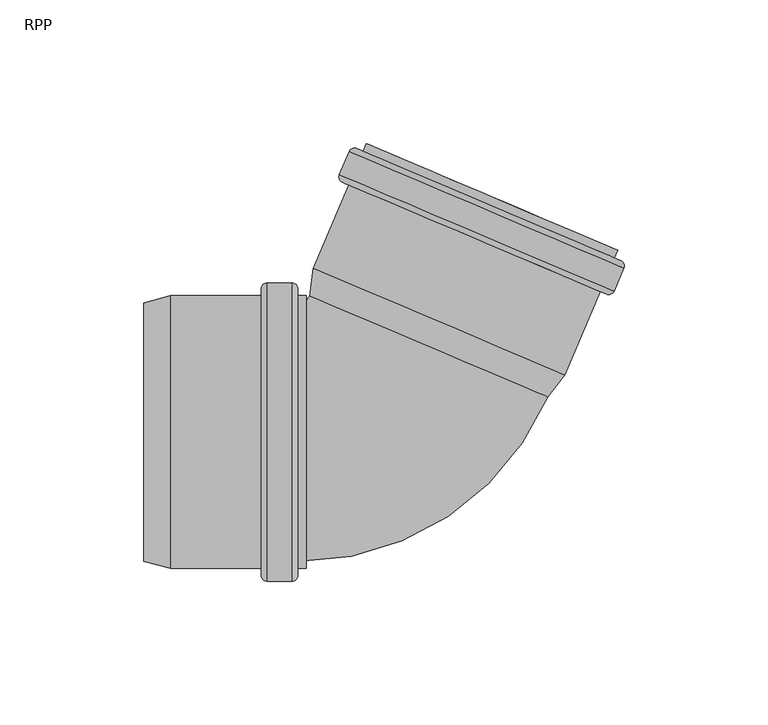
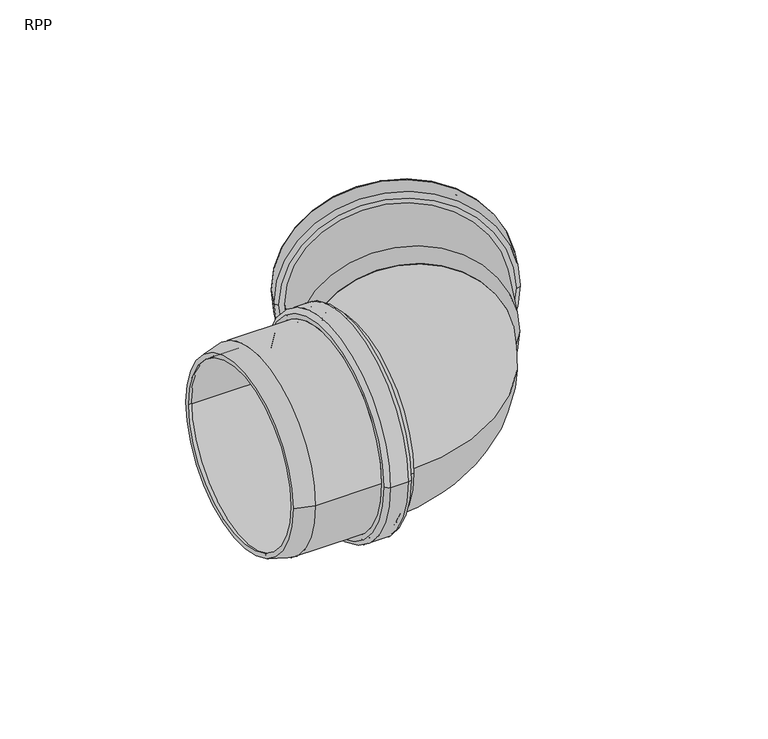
"""IFC4 building model written with IfcOpenShell, lengths in millimetres: pipe fitting geometry, RAUPIANO PLUS Bend : RPP."""

from ifc_helpers import new_model, si_unit, point, frame, origin, place, context, project, spatial, polyline, circle_curve, ellipse_curve, trimmed, source, transform, mapped, element, save
from ifc_brep_helpers import plane_surface, cylinder_surface, revolved_surface, advanced_brep


def rpp_eaa9c95d(model_context):
    return source(origin(), model_context, "Body", "AdvancedBrep", [
        advanced_brep(
        [(-43.3323925, -45.3, 0.0), (-43.3323925, 45.3, 0.0), (-76.81263, 45.3, 0.0), (-76.81263, -45.3, 0.0), (-42.8323925, -49.7, 0.0), (-42.8323925, 49.7, 0.0), (-43.3323925, 49.2, 0.0), (-43.3323925, -49.2, 0.0), (-35.5323925, -49.7, 0.0), (-35.5323925, 49.7, 0.0), (-35.0323925, -49.2, 0.0), (-35.0323925, 49.2, 0.0), (-29.9323925, -45.3, 0.0), (-29.9323925, 45.3, 0.0), (-35.0323925, 45.3, 0.0), (-35.0323925, -45.3, 0.0), (-32.8323925, -47.5, 0.0), (-32.8323925, 47.5, 0.0), (-29.9323925, 47.5, 0.0), (-29.9323925, -47.5, 0.0), (-34.8323925, -51.9, 0.0), (-34.8323925, 51.9, 0.0), (-32.8323925, 49.9, 0.0), (-32.8323925, -49.9, 0.0), (-43.5323925, -51.9, 0.0), (-43.5323925, 51.9, 0.0), (-45.5323925, -49.9, 0.0), (-45.5323925, 49.9, 0.0), (-77.1022655, -47.5, 0.0), (-77.1022655, 47.5, 0.0), (-45.5323925, 47.5, 0.0), (-45.5323925, -47.5, 0.0), (-86.4323925, -45.0, 0.0), (-86.4323925, 45.0, 0.0), (-86.4323925, 42.7223924, 0.0), (-86.4323925, -42.7223924, 0.0)],
        [
            (0, 1, circle_curve(frame((-43.3323925, 0.0, 0.0), z_axis=(1.0, 0.0, 0.0), x_axis=(0.0, 1.0, 0.0)), 45.3)),
            (1, 2),
            (2, 3, circle_curve(frame((-76.81263, 0.0, 0.0), z_axis=(-1.0, 0.0, 0.0), x_axis=(0.0, 1.0, 0.0)), 45.3)),
            (3, 0),
            (4, 5, circle_curve(frame((-42.8323925, 0.0, 0.0), z_axis=(1.0, 0.0, 0.0), x_axis=(0.0, 1.0, 0.0)), 49.7)),
            (5, 6, circle_curve(frame((-42.8323925, 49.2, 0.0), z_axis=(0.0, 0.0, 1.0), x_axis=(0.0, -1.0, 0.0)), 0.5)),
            (6, 7, circle_curve(frame((-43.3323925, 0.0, 0.0), z_axis=(-1.0, 0.0, 0.0), x_axis=(0.0, 1.0, 0.0)), 49.2)),
            (7, 4, circle_curve(frame((-42.8323925, -49.2, 0.0), z_axis=(0.0, 0.0, 1.0), x_axis=(0.0, 1.0, 0.0)), 0.5)),
            (8, 9, circle_curve(frame((-35.5323925, 0.0, 0.0), z_axis=(1.0, 0.0, 0.0), x_axis=(0.0, 1.0, 0.0)), 49.7)),
            (9, 5),
            (4, 8),
            (10, 11, circle_curve(frame((-35.0323925, 0.0, 0.0), z_axis=(1.0, 0.0, 0.0), x_axis=(0.0, 1.0, 0.0)), 49.2)),
            (11, 9, circle_curve(frame((-35.5323925, 49.2, 0.0), z_axis=(0.0, 0.0, 1.0), x_axis=(0.0, -1.0, 0.0)), 0.5)),
            (8, 10, circle_curve(frame((-35.5323925, -49.2, 0.0), z_axis=(0.0, 0.0, 1.0), x_axis=(0.0, 1.0, 0.0)), 0.5)),
            (12, 13, circle_curve(frame((-29.9323925, 0.0, 0.0), z_axis=(1.0, 0.0, 0.0), x_axis=(0.0, 1.0, 0.0)), 45.3)),
            (13, 14),
            (14, 15, circle_curve(frame((-35.0323925, 0.0, 0.0), z_axis=(-1.0, 0.0, 0.0), x_axis=(0.0, 1.0, 0.0)), 45.3)),
            (15, 12),
            (16, 17, circle_curve(frame((-32.8323925, 0.0, 0.0), z_axis=(1.0, 0.0, 0.0), x_axis=(0.0, 1.0, 0.0)), 47.5)),
            (17, 18),
            (18, 19, circle_curve(frame((-29.9323925, 0.0, 0.0), z_axis=(-1.0, 0.0, 0.0), x_axis=(0.0, 1.0, 0.0)), 47.5)),
            (19, 16),
            (20, 21, circle_curve(frame((-34.8323925, 0.0, 0.0), z_axis=(1.0, 0.0, 0.0), x_axis=(0.0, 1.0, 0.0)), 51.9)),
            (21, 22, circle_curve(frame((-34.8323925, 49.9, 0.0), z_axis=(0.0, 0.0, -1.0), x_axis=(0.0, -1.0, 0.0)), 2.0)),
            (22, 23, circle_curve(frame((-32.8323925, 0.0, 0.0), z_axis=(-1.0, 0.0, 0.0), x_axis=(0.0, 1.0, 0.0)), 49.9)),
            (23, 20, circle_curve(frame((-34.8323925, -49.9, 0.0), z_axis=(0.0, 0.0, -1.0), x_axis=(0.0, 1.0, 0.0)), 2.0)),
            (24, 25, circle_curve(frame((-43.5323925, 0.0, 0.0), z_axis=(1.0, 0.0, 0.0), x_axis=(0.0, 1.0, 0.0)), 51.9)),
            (25, 21),
            (20, 24),
            (26, 27, circle_curve(frame((-45.5323925, 0.0, 0.0), z_axis=(1.0, 0.0, 0.0), x_axis=(0.0, 1.0, 0.0)), 49.9)),
            (27, 25, circle_curve(frame((-43.5323925, 49.9, 0.0), z_axis=(0.0, 0.0, -1.0), x_axis=(0.0, -1.0, 0.0)), 2.0)),
            (24, 26, circle_curve(frame((-43.5323925, -49.9, 0.0), z_axis=(0.0, 0.0, -1.0), x_axis=(0.0, 1.0, 0.0)), 2.0)),
            (28, 29, circle_curve(frame((-77.1022655, 0.0, 0.0), z_axis=(1.0, 0.0, 0.0), x_axis=(0.0, 1.0, 0.0)), 47.5)),
            (29, 30),
            (30, 31, circle_curve(frame((-45.5323925, 0.0, 0.0), z_axis=(-1.0, 0.0, 0.0), x_axis=(0.0, 1.0, 0.0)), 47.5)),
            (31, 28),
            (32, 33, circle_curve(frame((-86.4323925, 0.0, 0.0), z_axis=(1.0, 0.0, 0.0), x_axis=(0.0, 1.0, 0.0)), 45.0)),
            (33, 29),
            (28, 32),
            (2, 34),
            (34, 35, circle_curve(frame((-86.4323925, 0.0, 0.0), z_axis=(-1.0, 0.0, 0.0), x_axis=(0.0, 1.0, 0.0)), 42.7223924)),
            (35, 3),
            (1, 0, circle_curve(frame((-43.3323925, 0.0, 0.0), z_axis=(1.0, 0.0, 0.0), x_axis=(0.0, -1.0, 0.0)), 45.3)),
            (3, 2, circle_curve(frame((-76.81263, 0.0, 0.0), z_axis=(-1.0, 0.0, 0.0), x_axis=(0.0, -1.0, 0.0)), 45.3)),
            (6, 7, circle_curve(frame((-43.3323925, 0.0, 0.0), z_axis=(1.0, 0.0, 0.0), x_axis=(0.0, -1.0, 0.0)), 49.2)),
            (5, 4, circle_curve(frame((-42.8323925, 0.0, 0.0), z_axis=(1.0, 0.0, 0.0), x_axis=(0.0, -1.0, 0.0)), 49.7)),
            (9, 8, circle_curve(frame((-35.5323925, 0.0, 0.0), z_axis=(1.0, 0.0, 0.0), x_axis=(0.0, -1.0, 0.0)), 49.7)),
            (11, 10, circle_curve(frame((-35.0323925, 0.0, 0.0), z_axis=(1.0, 0.0, 0.0), x_axis=(0.0, -1.0, 0.0)), 49.2)),
            (14, 15, circle_curve(frame((-35.0323925, 0.0, 0.0), z_axis=(1.0, 0.0, 0.0), x_axis=(0.0, -1.0, 0.0)), 45.3)),
            (13, 12, circle_curve(frame((-29.9323925, 0.0, 0.0), z_axis=(1.0, 0.0, 0.0), x_axis=(0.0, -1.0, 0.0)), 45.3)),
            (18, 19, circle_curve(frame((-29.9323925, 0.0, 0.0), z_axis=(1.0, 0.0, 0.0), x_axis=(0.0, -1.0, 0.0)), 47.5)),
            (17, 16, circle_curve(frame((-32.8323925, 0.0, 0.0), z_axis=(1.0, 0.0, 0.0), x_axis=(0.0, -1.0, 0.0)), 47.5)),
            (22, 23, circle_curve(frame((-32.8323925, 0.0, 0.0), z_axis=(1.0, 0.0, 0.0), x_axis=(0.0, -1.0, 0.0)), 49.9)),
            (21, 20, circle_curve(frame((-34.8323925, 0.0, 0.0), z_axis=(1.0, 0.0, 0.0), x_axis=(0.0, -1.0, 0.0)), 51.9)),
            (25, 24, circle_curve(frame((-43.5323925, 0.0, 0.0), z_axis=(1.0, 0.0, 0.0), x_axis=(0.0, -1.0, 0.0)), 51.9)),
            (27, 26, circle_curve(frame((-45.5323925, 0.0, 0.0), z_axis=(1.0, 0.0, 0.0), x_axis=(0.0, -1.0, 0.0)), 49.9)),
            (30, 31, circle_curve(frame((-45.5323925, 0.0, 0.0), z_axis=(1.0, 0.0, 0.0), x_axis=(0.0, -1.0, 0.0)), 47.5)),
            (29, 28, circle_curve(frame((-77.1022655, 0.0, 0.0), z_axis=(1.0, 0.0, 0.0), x_axis=(0.0, -1.0, 0.0)), 47.5)),
            (33, 32, circle_curve(frame((-86.4323925, 0.0, 0.0), z_axis=(1.0, 0.0, 0.0), x_axis=(0.0, -1.0, 0.0)), 45.0)),
            (34, 35, circle_curve(frame((-86.4323925, 0.0, 0.0), z_axis=(1.0, 0.0, 0.0), x_axis=(0.0, -1.0, 0.0)), 42.7223924)),
        ],
        [
            revolved_surface(polyline([(-76.81263, 45.3, 0.0), (-43.3323925, 45.3, 0.0)]), (-86.4323925, 0.0, 0.0), (-1.0, 0.0, 0.0)),
            revolved_surface(trimmed(ellipse_curve(frame((-42.8323925, 49.2, 0.0), z_axis=(0.0, 0.0, -1.0), x_axis=(0.0, -1.0, 0.0)), 0.5, 0.5), [point((-43.3323925, 49.2, 0.0))], [point((-42.8323925, 49.7, 0.0))], True, "CARTESIAN"), (-86.4323925, 0.0, 0.0), (-1.0, 0.0, 0.0)),
            revolved_surface(polyline([(-42.8323925, 49.7, 0.0), (-35.5323925, 49.7, 0.0)]), (-86.4323925, 0.0, 0.0), (-1.0, 0.0, 0.0)),
            revolved_surface(trimmed(ellipse_curve(frame((-35.5323925, 49.2, 0.0), z_axis=(0.0, 0.0, -1.0), x_axis=(0.0, -1.0, 0.0)), 0.5, 0.5), [point((-35.5323925, 49.7, 0.0))], [point((-35.0323925, 49.2, 0.0))], True, "CARTESIAN"), (-86.4323925, 0.0, 0.0), (-1.0, 0.0, 0.0)),
            revolved_surface(polyline([(-35.0323925, 45.3, 0.0), (-29.9323925, 45.3, 0.0)]), (-86.4323925, 0.0, 0.0), (-1.0, 0.0, 0.0)),
            cylinder_surface(frame((-86.4323925, 0.0, 0.0), z_axis=(-1.0, 0.0, 0.0), x_axis=(0.0, 1.0, 0.0)), 47.5),
            revolved_surface(trimmed(ellipse_curve(frame((-34.8323925, 49.9, 0.0), z_axis=(0.0, 0.0, 1.0), x_axis=(0.0, -1.0, 0.0)), 2.0, 2.0), [point((-32.8323925, 49.9, 0.0))], [point((-34.8323925, 51.9, 0.0))], True, "CARTESIAN"), (-86.4323925, 0.0, 0.0), (-1.0, 0.0, 0.0)),
            cylinder_surface(frame((-86.4323925, 0.0, 0.0), z_axis=(-1.0, 0.0, 0.0), x_axis=(0.0, 1.0, 0.0)), 51.9),
            revolved_surface(trimmed(ellipse_curve(frame((-43.5323925, 49.9, 0.0), z_axis=(0.0, 0.0, 1.0), x_axis=(0.0, -1.0, 0.0)), 2.0, 2.0), [point((-43.5323925, 51.9, 0.0))], [point((-45.5323925, 49.9, 0.0))], True, "CARTESIAN"), (-86.4323925, 0.0, 0.0), (-1.0, 0.0, 0.0)),
            revolved_surface(polyline([(-77.1022655, 47.5, 0.0), (-86.4323925, 45.0, 0.0)]), (-86.4323925, 0.0, 0.0), (-1.0, 0.0, 0.0)),
            revolved_surface(polyline([(-86.4323925, 42.7223924, 0.0), (-76.81263, 45.3, 0.0)]), (-86.4323925, 0.0, 0.0), (-1.0, 0.0, 0.0)),
            revolved_surface(polyline([(-76.81263, -45.3, 0.0), (-43.3323925, -45.3, 0.0)]), (-86.4323925, 0.0, 0.0), (-1.0, 0.0, 0.0)),
            plane_surface(frame((-43.3323925, 0.0, 0.0), z_axis=(1.0, 0.0, 0.0), x_axis=(0.0, -1.0, 0.0))),
            revolved_surface(trimmed(ellipse_curve(frame((-42.8323925, -49.2, 0.0), z_axis=(0.0, 0.0, 1.0), x_axis=(0.0, 1.0, 0.0)), 0.5, 0.5), [point((-43.3323925, -49.2, 0.0))], [point((-42.8323925, -49.7, 0.0))], True, "CARTESIAN"), (-86.4323925, 0.0, 0.0), (-1.0, 0.0, 0.0)),
            revolved_surface(polyline([(-42.8323925, -49.7, 0.0), (-35.5323925, -49.7, 0.0)]), (-86.4323925, 0.0, 0.0), (-1.0, 0.0, 0.0)),
            revolved_surface(trimmed(ellipse_curve(frame((-35.5323925, -49.2, 0.0), z_axis=(0.0, 0.0, 1.0), x_axis=(0.0, 1.0, 0.0)), 0.5, 0.5), [point((-35.5323925, -49.7, 0.0))], [point((-35.0323925, -49.2, 0.0))], True, "CARTESIAN"), (-86.4323925, 0.0, 0.0), (-1.0, 0.0, 0.0)),
            plane_surface(frame((-35.0323925, 0.0, 0.0), z_axis=(-1.0, 0.0, 0.0), x_axis=(0.0, -1.0, 0.0))),
            revolved_surface(polyline([(-35.0323925, -45.3, 0.0), (-29.9323925, -45.3, 0.0)]), (-86.4323925, 0.0, 0.0), (-1.0, 0.0, 0.0)),
            plane_surface(frame((-29.9323925, 0.0, 0.0), z_axis=(1.0, 0.0, 0.0), x_axis=(0.0, -1.0, 0.0))),
            cylinder_surface(frame((-86.4323925, 0.0, 0.0), z_axis=(-1.0, 0.0, 0.0), x_axis=(0.0, -1.0, 0.0)), 47.5),
            plane_surface(frame((-32.8323925, 0.0, 0.0), z_axis=(1.0, 0.0, 0.0), x_axis=(0.0, -1.0, 0.0))),
            revolved_surface(trimmed(ellipse_curve(frame((-34.8323925, -49.9, 0.0), z_axis=(0.0, 0.0, -1.0), x_axis=(0.0, 1.0, 0.0)), 2.0, 2.0), [point((-32.8323925, -49.9, 0.0))], [point((-34.8323925, -51.9, 0.0))], True, "CARTESIAN"), (-86.4323925, 0.0, 0.0), (-1.0, 0.0, 0.0)),
            cylinder_surface(frame((-86.4323925, 0.0, 0.0), z_axis=(-1.0, 0.0, 0.0), x_axis=(0.0, -1.0, 0.0)), 51.9),
            revolved_surface(trimmed(ellipse_curve(frame((-43.5323925, -49.9, 0.0), z_axis=(0.0, 0.0, -1.0), x_axis=(0.0, 1.0, 0.0)), 2.0, 2.0), [point((-43.5323925, -51.9, 0.0))], [point((-45.5323925, -49.9, 0.0))], True, "CARTESIAN"), (-86.4323925, 0.0, 0.0), (-1.0, 0.0, 0.0)),
            plane_surface(frame((-45.5323925, 0.0, 0.0), z_axis=(-1.0, 0.0, 0.0), x_axis=(0.0, -1.0, 0.0))),
            revolved_surface(polyline([(-77.1022655, -47.5, 0.0), (-86.4323925, -45.0, 0.0)]), (-86.4323925, 0.0, 0.0), (-1.0, 0.0, 0.0)),
            plane_surface(frame((-86.4323925, 0.0, 0.0), z_axis=(-1.0, 0.0, 0.0), x_axis=(0.0, -1.0, 0.0))),
            revolved_surface(polyline([(-86.4323925, -42.7223924, 0.0), (-76.81263, -45.3, 0.0)]), (-86.4323925, 0.0, 0.0), (-1.0, 0.0, 0.0)),
        ],
        [
            (0, [[1, 2, 3, 4]]),
            (1, [[5, 6, 7, 8]]),
            (2, [[9, 10, -5, 11]]),
            (3, [[12, 13, -9, 14]]),
            (4, [[15, 16, 17, 18]]),
            (5, [[19, 20, 21, 22]]),
            (6, [[23, 24, 25, 26]]),
            (7, [[27, 28, -23, 29]]),
            (8, [[30, 31, -27, 32]]),
            (5, [[33, 34, 35, 36]]),
            (9, [[37, 38, -33, 39]]),
            (10, [[-3, 40, 41, 42]]),
            (11, [[43, -4, 44, -2]]),
            (12, [[45, -7], [-43, -1]]),
            (13, [[46, -8, -45, -6]]),
            (14, [[47, -11, -46, -10]]),
            (15, [[48, -14, -47, -13]]),
            (16, [[-48, -12], [49, -17]]),
            (17, [[50, -18, -49, -16]]),
            (18, [[51, -21], [-50, -15]]),
            (19, [[52, -22, -51, -20]]),
            (20, [[53, -25], [-52, -19]]),
            (21, [[54, -26, -53, -24]]),
            (22, [[55, -29, -54, -28]]),
            (23, [[56, -32, -55, -31]]),
            (24, [[-56, -30], [57, -35]]),
            (19, [[58, -36, -57, -34]]),
            (25, [[59, -39, -58, -38]]),
            (26, [[-59, -37], [60, -41]]),
            (27, [[-44, -42, -60, -40]]),
        ],
    ),
        advanced_brep(
        [(51.9985149, 13.1612061, 0.0), (-26.6538242, 46.5471433, 0.0), (-25.2677839, 56.4093329, 0.0), (58.1299558, 21.0090927, 0.0), (60.0418969, 19.8828733, 0.0), (-27.4060642, 57.0023305, 0.0), (-28.7503731, 47.4370755, 0.0), (54.0950637, 12.2712739, 0.0), (72.377229, 48.9430946, 0.0), (-15.0707321, 86.0625518, 0.0), (80.6082734, 57.0732796, 0.0), (-14.9401303, 97.6311707, 0.0), (-18.3394912, 89.6227785, 0.0), (77.2089126, 49.0648873, 0.0), (78.4726346, 63.3029703, 0.0), (-8.9753265, 100.4224275, 0.0), (-10.1084467, 97.7529635, 0.0), (77.3395143, 60.6335062, 0.0), (74.4547952, 59.4680041, 0.0), (-8.9429445, 94.8682443, 0.0), (-6.9502158, 99.562819, 0.0), (76.4475239, 64.1625788, 0.0), (75.4573137, 50.5688492, 0.0), (-16.0408687, 89.4075234, 0.0), (-13.1885315, 96.1272088, 0.0), (78.309651, 57.2885347, 0.0), (-12.1860129, 87.228054, 0.0), (71.2117268, 51.8278138, 0.0), (-17.2799437, 87.0003065, 0.0), (74.5864407, 48.0053399, 0.0), (79.548726, 59.6957515, 0.0), (-12.3176584, 98.6907182, 0.0), (-12.5329135, 96.3920957, 0.0), (78.0447641, 57.9441526, 0.0), (74.8016957, 50.3039624, 0.0), (-15.7759818, 88.7519054, 0.0)],
        [
            (0, 1, circle_curve(frame((12.6723453, 29.8541747, 0.0), z_axis=(-0.39073112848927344, -0.9205048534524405, 0.0), x_axis=(-0.9205048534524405, 0.39073112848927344, 0.0)), 42.7223924)),
            (1, 2),
            (2, 3, circle_curve(frame((16.431086, 38.7092128, 0.0), z_axis=(0.39073112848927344, 0.9205048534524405, 0.0), x_axis=(-0.9205048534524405, 0.39073112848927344, 0.0)), 45.3)),
            (3, 0),
            (4, 5, circle_curve(frame((16.3179164, 38.4426019, 0.0), z_axis=(-0.39073112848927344, -0.9205048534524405, 0.0), x_axis=(-0.9205048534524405, 0.39073112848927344, 0.0)), 47.5)),
            (5, 6),
            (6, 7, circle_curve(frame((12.6723453, 29.8541747, 0.0), z_axis=(0.39073112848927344, 0.9205048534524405, 0.0), x_axis=(-0.9205048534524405, 0.39073112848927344, 0.0)), 45.0)),
            (7, 4),
            (8, 9, circle_curve(frame((28.6532485, 67.5028232, 0.0), z_axis=(-0.39073112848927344, -0.9205048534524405, 0.0), x_axis=(-0.9205048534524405, 0.39073112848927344, 0.0)), 47.5)),
            (9, 5),
            (4, 8),
            (10, 11, circle_curve(frame((32.8340716, 77.3522251, 0.0), z_axis=(-0.39073112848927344, -0.9205048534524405, 0.0), x_axis=(-0.9205048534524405, 0.39073112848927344, 0.0)), 51.9)),
            (11, 12),
            (12, 13, circle_curve(frame((29.4347107, 69.3438329, 0.0), z_axis=(0.39073112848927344, 0.9205048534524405, 0.0), x_axis=(-0.9205048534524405, 0.39073112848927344, 0.0)), 51.9)),
            (13, 10),
            (14, 15, circle_curve(frame((34.7486541, 81.8626989, 0.0), z_axis=(-0.39073112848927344, -0.9205048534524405, 0.0), x_axis=(-0.9205048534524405, 0.39073112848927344, 0.0)), 47.5)),
            (15, 16),
            (16, 17, circle_curve(frame((33.6155338, 79.1932348, 0.0), z_axis=(0.39073112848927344, 0.9205048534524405, 0.0), x_axis=(-0.9205048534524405, 0.39073112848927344, 0.0)), 47.5)),
            (17, 14),
            (18, 19, circle_curve(frame((32.7559253, 77.1681242, 0.0), z_axis=(-0.39073112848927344, -0.9205048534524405, 0.0), x_axis=(-0.9205048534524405, 0.39073112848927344, 0.0)), 45.3)),
            (19, 20),
            (20, 21, circle_curve(frame((34.7486541, 81.8626989, 0.0), z_axis=(0.39073112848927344, 0.9205048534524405, 0.0), x_axis=(-0.9205048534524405, 0.39073112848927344, 0.0)), 45.3)),
            (21, 18),
            (22, 23, circle_curve(frame((29.7082225, 69.9881863, 0.0), z_axis=(-0.39073112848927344, -0.9205048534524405, 0.0), x_axis=(-0.9205048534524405, 0.39073112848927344, 0.0)), 49.7)),
            (23, 24),
            (24, 25, circle_curve(frame((32.5605598, 76.7078717, 0.0), z_axis=(0.39073112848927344, 0.9205048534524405, 0.0), x_axis=(-0.9205048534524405, 0.39073112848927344, 0.0)), 49.7)),
            (25, 22),
            (2, 26),
            (26, 27, circle_curve(frame((29.512857, 69.5279339, 0.0), z_axis=(0.39073112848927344, 0.9205048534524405, 0.0), x_axis=(-0.9205048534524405, 0.39073112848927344, 0.0)), 45.3)),
            (27, 3),
            (1, 0, circle_curve(frame((12.6723453, 29.8541747, 0.0), z_axis=(-0.39073112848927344, -0.9205048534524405, 0.0), x_axis=(0.9205048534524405, -0.39073112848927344, 0.0)), 42.7223924)),
            (3, 2, circle_curve(frame((16.431086, 38.7092128, 0.0), z_axis=(0.39073112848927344, 0.9205048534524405, 0.0), x_axis=(0.9205048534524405, -0.39073112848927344, 0.0)), 45.3)),
            (6, 7, circle_curve(frame((12.6723453, 29.8541747, 0.0), z_axis=(-0.39073112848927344, -0.9205048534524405, 0.0), x_axis=(0.9205048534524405, -0.39073112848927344, 0.0)), 45.0)),
            (5, 4, circle_curve(frame((16.3179164, 38.4426019, 0.0), z_axis=(-0.39073112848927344, -0.9205048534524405, 0.0), x_axis=(0.9205048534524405, -0.39073112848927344, 0.0)), 47.5)),
            (9, 8, circle_curve(frame((28.6532485, 67.5028232, 0.0), z_axis=(-0.39073112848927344, -0.9205048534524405, 0.0), x_axis=(0.9205048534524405, -0.39073112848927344, 0.0)), 47.5)),
            (28, 29, circle_curve(frame((28.6532485, 67.5028232, 0.0), z_axis=(-0.39073112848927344, -0.9205048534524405, 0.0), x_axis=(0.9205048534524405, -0.39073112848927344, 0.0)), 49.9)),
            (29, 28, circle_curve(frame((28.6532485, 67.5028232, 0.0), z_axis=(-0.39073112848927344, -0.9205048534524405, 0.0), x_axis=(-0.9205048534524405, 0.39073112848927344, 0.0)), 49.9)),
            (11, 10, circle_curve(frame((32.8340716, 77.3522251, 0.0), z_axis=(-0.39073112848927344, -0.9205048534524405, 0.0), x_axis=(0.9205048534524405, -0.39073112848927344, 0.0)), 51.9)),
            (13, 12, circle_curve(frame((29.4347107, 69.3438329, 0.0), z_axis=(0.39073112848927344, 0.9205048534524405, 0.0), x_axis=(0.9205048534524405, -0.39073112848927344, 0.0)), 51.9)),
            (30, 31, circle_curve(frame((33.6155338, 79.1932348, 0.0), z_axis=(0.39073112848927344, 0.9205048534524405, 0.0), x_axis=(0.9205048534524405, -0.39073112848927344, 0.0)), 49.9)),
            (31, 30, circle_curve(frame((33.6155338, 79.1932348, 0.0), z_axis=(0.39073112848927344, 0.9205048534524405, 0.0), x_axis=(-0.9205048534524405, 0.39073112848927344, 0.0)), 49.9)),
            (16, 17, circle_curve(frame((33.6155338, 79.1932348, 0.0), z_axis=(-0.39073112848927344, -0.9205048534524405, 0.0), x_axis=(0.9205048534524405, -0.39073112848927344, 0.0)), 47.5)),
            (15, 14, circle_curve(frame((34.7486541, 81.8626989, 0.0), z_axis=(-0.39073112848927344, -0.9205048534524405, 0.0), x_axis=(0.9205048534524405, -0.39073112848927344, 0.0)), 47.5)),
            (20, 21, circle_curve(frame((34.7486541, 81.8626989, 0.0), z_axis=(-0.39073112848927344, -0.9205048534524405, 0.0), x_axis=(0.9205048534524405, -0.39073112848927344, 0.0)), 45.3)),
            (19, 18, circle_curve(frame((32.7559253, 77.1681242, 0.0), z_axis=(-0.39073112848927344, -0.9205048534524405, 0.0), x_axis=(0.9205048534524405, -0.39073112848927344, 0.0)), 45.3)),
            (32, 33, circle_curve(frame((32.7559253, 77.1681242, 0.0), z_axis=(-0.39073112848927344, -0.9205048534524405, 0.0), x_axis=(0.9205048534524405, -0.39073112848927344, 0.0)), 49.2)),
            (33, 32, circle_curve(frame((32.7559253, 77.1681242, 0.0), z_axis=(-0.39073112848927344, -0.9205048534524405, 0.0), x_axis=(-0.9205048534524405, 0.39073112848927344, 0.0)), 49.2)),
            (23, 22, circle_curve(frame((29.7082225, 69.9881863, 0.0), z_axis=(-0.39073112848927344, -0.9205048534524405, 0.0), x_axis=(0.9205048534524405, -0.39073112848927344, 0.0)), 49.7)),
            (25, 24, circle_curve(frame((32.5605598, 76.7078717, 0.0), z_axis=(0.39073112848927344, 0.9205048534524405, 0.0), x_axis=(0.9205048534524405, -0.39073112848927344, 0.0)), 49.7)),
            (34, 35, circle_curve(frame((29.512857, 69.5279339, 0.0), z_axis=(0.39073112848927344, 0.9205048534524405, 0.0), x_axis=(0.9205048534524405, -0.39073112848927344, 0.0)), 49.2)),
            (35, 34, circle_curve(frame((29.512857, 69.5279339, 0.0), z_axis=(0.39073112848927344, 0.9205048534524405, 0.0), x_axis=(-0.9205048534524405, 0.39073112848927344, 0.0)), 49.2)),
            (26, 27, circle_curve(frame((29.512857, 69.5279339, 0.0), z_axis=(-0.39073112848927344, -0.9205048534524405, 0.0), x_axis=(0.9205048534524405, -0.39073112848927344, 0.0)), 45.3)),
            (12, 28, circle_curve(frame((-16.4984815, 88.8413162, 0.0), z_axis=(0.0, 0.0, 1.0), x_axis=(0.9205048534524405, -0.39073112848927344, 0.0)), 2.0)),
            (29, 13, circle_curve(frame((75.3679029, 49.8463496, 0.0), z_axis=(0.0, 0.0, 1.0), x_axis=(-0.9205048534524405, 0.39073112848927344, 0.0)), 2.0)),
            (31, 11, circle_curve(frame((-13.0991206, 96.8497085, 0.0), z_axis=(0.0, 0.0, 1.0), x_axis=(0.9205048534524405, -0.39073112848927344, 0.0)), 2.0)),
            (10, 30, circle_curve(frame((78.7672637, 57.8547418, 0.0), z_axis=(0.0, 0.0, 1.0), x_axis=(-0.9205048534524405, 0.39073112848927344, 0.0)), 2.0)),
            (24, 32, circle_curve(frame((-12.728279, 95.9318433, 0.0), z_axis=(0.0, 0.0, -1.0), x_axis=(0.9205048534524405, -0.39073112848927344, 0.0)), 0.5)),
            (33, 25, circle_curve(frame((77.8493986, 57.4839002, 0.0), z_axis=(0.0, 0.0, -1.0), x_axis=(-0.9205048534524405, 0.39073112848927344, 0.0)), 0.5)),
            (35, 23, circle_curve(frame((-15.5806163, 89.2121578, 0.0), z_axis=(0.0, 0.0, -1.0), x_axis=(0.9205048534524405, -0.39073112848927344, 0.0)), 0.5)),
            (22, 34, circle_curve(frame((74.9970613, 50.7642148, 0.0), z_axis=(0.0, 0.0, -1.0), x_axis=(-0.9205048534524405, 0.39073112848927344, 0.0)), 0.5)),
        ],
        [
            revolved_surface(polyline([(-25.2677839, 56.4093329, 0.0), (-26.6538242, 46.5471433, 0.0)]), (12.6723453, 29.8541747, 0.0), (0.39073112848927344, 0.9205048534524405, 0.0)),
            revolved_surface(polyline([(-28.7503731, 47.4370755, 0.0), (-27.4060642, 57.0023305, 0.0)]), (12.6723453, 29.8541747, 0.0), (0.39073112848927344, 0.9205048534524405, 0.0)),
            cylinder_surface(frame((12.6723453, 29.8541747, 0.0), z_axis=(0.39073112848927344, 0.9205048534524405, 0.0), x_axis=(-0.9205048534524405, 0.39073112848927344, 0.0)), 47.5),
            cylinder_surface(frame((12.6723453, 29.8541747, 0.0), z_axis=(0.39073112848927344, 0.9205048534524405, 0.0), x_axis=(-0.9205048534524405, 0.39073112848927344, 0.0)), 51.9),
            revolved_surface(polyline([(-6.950215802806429, 99.56281903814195, 0.0), (-8.94294454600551, 94.8682443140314, 0.0)]), (12.6723453, 29.8541747, 0.0), (0.39073112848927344, 0.9205048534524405, 0.0)),
            revolved_surface(polyline([(-13.1885314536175, 96.12720888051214, 0.0), (-16.040868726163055, 89.40752336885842, 0.0)]), (12.6723453, 29.8541747, 0.0), (0.39073112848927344, 0.9205048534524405, 0.0)),
            revolved_surface(polyline([(-12.186012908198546, 87.22805404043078, 0.0), (-25.26778390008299, 56.40933290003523, 0.0)]), (12.6723453, 29.8541747, 0.0), (0.39073112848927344, 0.9205048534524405, 0.0)),
            revolved_surface(polyline([(58.1299558, 21.0090927, 0.0), (51.9985149, 13.1612061, 0.0)]), (12.6723453, 29.8541747, 0.0), (0.39073112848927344, 0.9205048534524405, 0.0)),
            plane_surface(frame((12.6723453, 29.8541747, 0.0), z_axis=(-0.39073112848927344, -0.9205048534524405, 0.0), x_axis=(0.9205048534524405, -0.39073112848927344, 0.0))),
            revolved_surface(polyline([(54.0950637, 12.2712739, 0.0), (60.0418969, 19.8828733, 0.0)]), (12.6723453, 29.8541747, 0.0), (0.39073112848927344, 0.9205048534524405, 0.0)),
            cylinder_surface(frame((12.6723453, 29.8541747, 0.0), z_axis=(0.39073112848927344, 0.9205048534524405, 0.0), x_axis=(0.9205048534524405, -0.39073112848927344, 0.0)), 47.5),
            plane_surface(frame((28.6532485, 67.5028232, 0.0), z_axis=(-0.39073112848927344, -0.9205048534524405, 0.0), x_axis=(0.9205048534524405, -0.39073112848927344, 0.0))),
            cylinder_surface(frame((12.6723453, 29.8541747, 0.0), z_axis=(0.39073112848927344, 0.9205048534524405, 0.0), x_axis=(0.9205048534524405, -0.39073112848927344, 0.0)), 51.9),
            plane_surface(frame((33.6155338, 79.1932348, 0.0), z_axis=(0.39073112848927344, 0.9205048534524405, 0.0), x_axis=(0.9205048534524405, -0.39073112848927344, 0.0))),
            plane_surface(frame((34.7486541, 81.8626989, 0.0), z_axis=(0.39073112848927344, 0.9205048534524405, 0.0), x_axis=(0.9205048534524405, -0.39073112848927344, 0.0))),
            revolved_surface(polyline([(76.44752391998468, 64.1625787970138, 0.0), (74.4547951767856, 59.46800407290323, 0.0)]), (12.6723453, 29.8541747, 0.0), (0.39073112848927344, 0.9205048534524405, 0.0)),
            plane_surface(frame((32.7559253, 77.1681242, 0.0), z_axis=(-0.39073112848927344, -0.9205048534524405, 0.0), x_axis=(0.9205048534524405, -0.39073112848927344, 0.0))),
            revolved_surface(polyline([(78.30965097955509, 57.288534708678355, 0.0), (75.45731370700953, 50.56884919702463, 0.0)]), (12.6723453, 29.8541747, 0.0), (0.39073112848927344, 0.9205048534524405, 0.0)),
            plane_surface(frame((29.512857, 69.5279339, 0.0), z_axis=(0.39073112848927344, 0.9205048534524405, 0.0), x_axis=(0.9205048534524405, -0.39073112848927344, 0.0))),
            revolved_surface(polyline([(71.21172681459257, 51.827813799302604, 0.0), (58.12995582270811, 21.009092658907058, 0.0)]), (12.6723453, 29.8541747, 0.0), (0.39073112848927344, 0.9205048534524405, 0.0)),
            revolved_surface(trimmed(ellipse_curve(frame((-16.4984815, 88.8413162, 0.0), z_axis=(0.0, 0.0, -1.0), x_axis=(0.9205048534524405, -0.39073112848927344, 0.0)), 2.0, 2.0), [point((-17.2799437, 87.0003065, 0.0))], [point((-18.3394912, 89.6227785, 0.0))], True, "CARTESIAN"), (12.6723453, 29.8541747, 0.0), (0.39073112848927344, 0.9205048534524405, 0.0)),
            revolved_surface(trimmed(ellipse_curve(frame((-13.0991206, 96.8497085, 0.0), z_axis=(0.0, 0.0, -1.0), x_axis=(0.9205048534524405, -0.39073112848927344, 0.0)), 2.0, 2.0), [point((-14.9401303, 97.6311707, 0.0))], [point((-12.3176584, 98.6907182, 0.0))], True, "CARTESIAN"), (12.6723453, 29.8541747, 0.0), (0.39073112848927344, 0.9205048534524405, 0.0)),
            revolved_surface(trimmed(ellipse_curve(frame((-12.728279, 95.9318433, 0.0), z_axis=(0.0, 0.0, 1.0), x_axis=(0.9205048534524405, -0.39073112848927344, 0.0)), 0.5, 0.5), [point((-12.5329135, 96.3920957, 0.0))], [point((-13.1885315, 96.1272088, 0.0))], True, "CARTESIAN"), (12.6723453, 29.8541747, 0.0), (0.39073112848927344, 0.9205048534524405, 0.0)),
            revolved_surface(trimmed(ellipse_curve(frame((-15.5806163, 89.2121578, 0.0), z_axis=(0.0, 0.0, 1.0), x_axis=(0.9205048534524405, -0.39073112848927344, 0.0)), 0.5, 0.5), [point((-16.0408687, 89.4075234, 0.0))], [point((-15.7759818, 88.7519054, 0.0))], True, "CARTESIAN"), (12.6723453, 29.8541747, 0.0), (0.39073112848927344, 0.9205048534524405, 0.0)),
            revolved_surface(trimmed(ellipse_curve(frame((75.3679029, 49.8463496, 0.0), z_axis=(0.0, 0.0, 1.0), x_axis=(-0.9205048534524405, 0.3907311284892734, 0.0)), 2.0, 2.0), [point((74.5864407, 48.0053399, 0.0))], [point((77.2089126, 49.0648873, 0.0))], True, "CARTESIAN"), (12.6723453, 29.8541747, 0.0), (0.39073112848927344, 0.9205048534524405, 0.0)),
            revolved_surface(trimmed(ellipse_curve(frame((78.7672637, 57.8547418, 0.0), z_axis=(0.0, 0.0, 1.0), x_axis=(-0.9205048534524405, 0.3907311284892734, 0.0)), 2.0, 2.0), [point((80.6082734, 57.0732796, 0.0))], [point((79.548726, 59.6957515, 0.0))], True, "CARTESIAN"), (12.6723453, 29.8541747, 0.0), (0.39073112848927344, 0.9205048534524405, 0.0)),
            revolved_surface(trimmed(ellipse_curve(frame((77.8493986, 57.4839002, 0.0), z_axis=(0.0, 0.0, -1.0), x_axis=(-0.9205048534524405, 0.3907311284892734, 0.0)), 0.5, 0.5), [point((78.0447641, 57.9441526, 0.0))], [point((78.309651, 57.2885347, 0.0))], True, "CARTESIAN"), (12.6723453, 29.8541747, 0.0), (0.39073112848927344, 0.9205048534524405, 0.0)),
            revolved_surface(trimmed(ellipse_curve(frame((74.9970613, 50.7642148, 0.0), z_axis=(0.0, 0.0, -1.0), x_axis=(-0.9205048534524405, 0.3907311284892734, 0.0)), 0.5, 0.5), [point((75.4573137, 50.5688492, 0.0))], [point((74.8016957, 50.3039624, 0.0))], True, "CARTESIAN"), (12.6723453, 29.8541747, 0.0), (0.39073112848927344, 0.9205048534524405, 0.0)),
        ],
        [
            (0, [[1, 2, 3, 4]]),
            (1, [[5, 6, 7, 8]]),
            (2, [[9, 10, -5, 11]]),
            (3, [[12, 13, 14, 15]]),
            (2, [[16, 17, 18, 19]]),
            (4, [[20, 21, 22, 23]]),
            (5, [[24, 25, 26, 27]]),
            (6, [[-3, 28, 29, 30]]),
            (7, [[31, -4, 32, -2]]),
            (8, [[33, -7], [-31, -1]]),
            (9, [[34, -8, -33, -6]]),
            (10, [[35, -11, -34, -10]]),
            (11, [[36, 37], [-35, -9]]),
            (12, [[38, -15, 39, -13]]),
            (13, [[40, 41], [42, -18]]),
            (10, [[43, -19, -42, -17]]),
            (14, [[-43, -16], [44, -22]]),
            (15, [[45, -23, -44, -21]]),
            (16, [[46, 47], [-45, -20]]),
            (17, [[48, -27, 49, -25]]),
            (18, [[50, 51], [52, -29]]),
            (19, [[-32, -30, -52, -28]]),
            (20, [[-14, 53, -37, 54]]),
            (21, [[-41, 55, -12, 56]]),
            (22, [[-26, 57, -47, 58]]),
            (23, [[-51, 59, -24, 60]]),
            (24, [[-39, -54, -36, -53]]),
            (25, [[-40, -56, -38, -55]]),
            (26, [[-49, -58, -46, -57]]),
            (27, [[-50, -60, -48, -59]]),
        ],
    ),
        advanced_brep(
        [(-32.4323925, 42.8, 0.0), (-32.4323925, -42.8, 0.0), (-86.4323925, -42.8, 0.0), (-86.4323925, 42.8, 0.0), (-81.2075214, 45.0, 0.0), (-81.2075214, -45.0, 0.0), (-32.4323925, -45.0, 0.0), (-32.4323925, 45.0, 0.0), (-86.4323925, 43.6, 0.0), (-86.4323925, -43.6, 0.0)],
        [
            (0, 1, circle_curve(frame((-32.4323925, 0.0, 0.0), z_axis=(1.0, 0.0, 0.0), x_axis=(0.0, -1.0, 0.0)), 42.8)),
            (1, 2),
            (2, 3, circle_curve(frame((-86.4323925, 0.0, 0.0), z_axis=(-1.0, 0.0, 0.0), x_axis=(0.0, -1.0, 0.0)), 42.8)),
            (3, 0),
            (4, 5, circle_curve(frame((-81.2075214, 0.0, 0.0), z_axis=(1.0, 0.0, 0.0), x_axis=(0.0, -1.0, 0.0)), 45.0)),
            (5, 6),
            (6, 7, circle_curve(frame((-32.4323925, 0.0, 0.0), z_axis=(-1.0, 0.0, 0.0), x_axis=(0.0, -1.0, 0.0)), 45.0)),
            (7, 4),
            (8, 9, circle_curve(frame((-86.4323925, 0.0, 0.0), z_axis=(1.0, 0.0, 0.0), x_axis=(0.0, -1.0, 0.0)), 43.6)),
            (9, 5),
            (4, 8),
            (1, 0, circle_curve(frame((-32.4323925, 0.0, 0.0), z_axis=(1.0, 0.0, 0.0), x_axis=(0.0, 1.0, 0.0)), 42.8)),
            (3, 2, circle_curve(frame((-86.4323925, 0.0, 0.0), z_axis=(-1.0, 0.0, 0.0), x_axis=(0.0, 1.0, 0.0)), 42.8)),
            (6, 7, circle_curve(frame((-32.4323925, 0.0, 0.0), z_axis=(1.0, 0.0, 0.0), x_axis=(0.0, 1.0, 0.0)), 45.0)),
            (5, 4, circle_curve(frame((-81.2075214, 0.0, 0.0), z_axis=(1.0, 0.0, 0.0), x_axis=(0.0, 1.0, 0.0)), 45.0)),
            (9, 8, circle_curve(frame((-86.4323925, 0.0, 0.0), z_axis=(1.0, 0.0, 0.0), x_axis=(0.0, 1.0, 0.0)), 43.6)),
        ],
        [
            revolved_surface(polyline([(-86.4323925, -42.8, 0.0), (-32.4323925, -42.8, 0.0)]), (-32.4323925, 0.0, 0.0), (-1.0, 0.0, 0.0)),
            cylinder_surface(frame((-32.4323925, 0.0, 0.0), z_axis=(-1.0, 0.0, 0.0), x_axis=(0.0, -1.0, 0.0)), 45.0),
            revolved_surface(polyline([(-81.2075214, -45.0, 0.0), (-86.4323925, -43.6, 0.0)]), (-32.4323925, 0.0, 0.0), (-1.0, 0.0, 0.0)),
            revolved_surface(polyline([(-86.4323925, 42.8, 0.0), (-32.4323925, 42.8, 0.0)]), (-32.4323925, 0.0, 0.0), (-1.0, 0.0, 0.0)),
            plane_surface(frame((-32.4323925, 0.0, 0.0), z_axis=(1.0, 0.0, 0.0), x_axis=(0.0, 1.0, 0.0))),
            cylinder_surface(frame((-32.4323925, 0.0, 0.0), z_axis=(-1.0, 0.0, 0.0), x_axis=(0.0, 1.0, 0.0)), 45.0),
            revolved_surface(polyline([(-81.2075214, 45.0, 0.0), (-86.4323925, 43.6, 0.0)]), (-32.4323925, 0.0, 0.0), (-1.0, 0.0, 0.0)),
            plane_surface(frame((-86.4323925, 0.0, 0.0), z_axis=(-1.0, 0.0, 0.0), x_axis=(0.0, 1.0, 0.0))),
        ],
        [
            (0, [[1, 2, 3, 4]]),
            (1, [[5, 6, 7, 8]]),
            (2, [[9, 10, -5, 11]]),
            (3, [[12, -4, 13, -2]]),
            (4, [[14, -7], [-12, -1]]),
            (5, [[15, -8, -14, -6]]),
            (6, [[16, -11, -15, -10]]),
            (7, [[-16, -9], [-13, -3]]),
        ],
    ),
        advanced_brep(
        [(-32.4323925, -45.0, 0.0), (-32.4323925, 45.0, 0.0), (-32.4323925, -42.8, 0.0), (-32.4323925, 42.8, 0.0), (54.0950637, 12.2712739, 0.0), (-28.7503731, 47.4370755, 0.0), (52.069953, 13.1308824, 0.0), (-26.7252624, 46.577467, 0.0)],
        [
            (0, 1, circle_curve(frame((-32.4323925, 0.0, 0.0), z_axis=(-1.0, 0.0, 0.0), x_axis=(0.0, 1.0, 0.0)), 45.0)),
            (1, 0, circle_curve(frame((-32.4323925, 0.0, 0.0), z_axis=(-1.0, 0.0, 0.0), x_axis=(0.0, 1.0, 0.0)), 45.0)),
            (2, 3, circle_curve(frame((-32.4323925, 0.0, 0.0), z_axis=(1.0, 0.0, 0.0), x_axis=(0.0, 1.0, 0.0)), 42.8)),
            (3, 2, circle_curve(frame((-32.4323925, 0.0, 0.0), z_axis=(1.0, 0.0, 0.0), x_axis=(0.0, 1.0, 0.0)), 42.8)),
            (4, 5, circle_curve(frame((12.6723453, 29.8541747, 0.0), z_axis=(0.3907311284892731, 0.9205048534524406, 0.0), x_axis=(-0.9205048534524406, 0.3907311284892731, 0.0)), 45.0)),
            (5, 4, circle_curve(frame((12.6723453, 29.8541747, 0.0), z_axis=(0.3907311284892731, 0.9205048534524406, 0.0), x_axis=(-0.9205048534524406, 0.3907311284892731, 0.0)), 45.0)),
            (6, 7, circle_curve(frame((12.6723453, 29.8541747, 0.0), z_axis=(-0.3907311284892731, -0.9205048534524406, 0.0), x_axis=(-0.9205048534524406, 0.3907311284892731, 0.0)), 42.8)),
            (7, 6, circle_curve(frame((12.6723453, 29.8541747, 0.0), z_axis=(-0.3907311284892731, -0.9205048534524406, 0.0), x_axis=(-0.9205048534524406, 0.3907311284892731, 0.0)), 42.8)),
            (7, 3, circle_curve(frame((-32.4323925, 49.0, 0.0), z_axis=(0.0, 0.0, -1.0), x_axis=(0.0, -1.0, 0.0)), 6.2)),
            (2, 6, circle_curve(frame((-32.4323925, 49.0, 0.0), z_axis=(0.0, 0.0, 1.0), x_axis=(0.0, -1.0, 0.0)), 91.8)),
            (5, 1, circle_curve(frame((-32.4323925, 49.0, 0.0), z_axis=(0.0, 0.0, -1.0), x_axis=(0.0, -1.0, 0.0)), 4.0)),
            (0, 4, circle_curve(frame((-32.4323925, 49.0, 0.0), z_axis=(0.0, 0.0, 1.0), x_axis=(0.0, -1.0, 0.0)), 94.0)),
        ],
        [
            plane_surface(frame((-32.4323925, 0.0, 0.0), z_axis=(-1.0, 0.0, 0.0), x_axis=(0.0, 0.0, 1.0))),
            plane_surface(frame((12.6723453, 29.8541747, 0.0), z_axis=(0.3907311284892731, 0.9205048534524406, 0.0), x_axis=(0.0, 0.0, 1.0))),
            revolved_surface(trimmed(ellipse_curve(frame((-32.4323925, 0.0, 0.0), z_axis=(1.0, 0.0, 0.0), x_axis=(0.0, 1.0, 0.0)), 42.8, 42.8), [point((-32.4323925, -42.8, 0.0))], [point((-32.4323925, 42.8, 0.0))], True, "CARTESIAN"), (-32.4323925, 49.0, 0.0), (0.0, 0.0, 1.0)),
            revolved_surface(trimmed(ellipse_curve(frame((-32.4323925, 0.0, 0.0), z_axis=(1.0, 0.0, 0.0), x_axis=(0.0, 1.0, 0.0)), 42.8, 42.8), [point((-32.4323925, 42.8, 0.0))], [point((-32.4323925, -42.8, 0.0))], True, "CARTESIAN"), (-32.4323925, 49.0, 0.0), (0.0, 0.0, 1.0)),
            revolved_surface(trimmed(ellipse_curve(frame((-32.4323925, 0.0, 0.0), z_axis=(-1.0, 0.0, 0.0), x_axis=(0.0, 1.0, 0.0)), 45.0, 45.0), [point((-32.4323925, -45.0, 0.0))], [point((-32.4323925, 45.0, 0.0))], True, "CARTESIAN"), (-32.4323925, 49.0, 0.0), (0.0, 0.0, 1.0)),
            revolved_surface(trimmed(ellipse_curve(frame((-32.4323925, 0.0, 0.0), z_axis=(-1.0, 0.0, 0.0), x_axis=(0.0, 1.0, 0.0)), 45.0, 45.0), [point((-32.4323925, 45.0, 0.0))], [point((-32.4323925, -45.0, 0.0))], True, "CARTESIAN"), (-32.4323925, 49.0, 0.0), (0.0, 0.0, 1.0)),
        ],
        [
            (0, [[1, 2], [3, 4]]),
            (1, [[5, 6], [7, 8]]),
            (2, [[9, -3, 10, -8]]),
            (3, [[-10, -4, -9, -7]]),
            (4, [[11, -1, 12, -6]]),
            (5, [[-12, -2, -11, -5]]),
        ],
    ),
    ])


if __name__ == "__main__":
    model = new_model("IFC4")
    model_context = context("Model", 3, world=origin())
    ifc_project = project(units=[si_unit("LENGTHUNIT", "METRE", prefix="MILLI")], contexts=[model_context])
    site = spatial("IfcSite", under=ifc_project)
    building = spatial("IfcBuilding", under=site)
    placement = place(None, origin())
    rpp_shape = rpp_eaa9c95d(model_context)
    element("IfcPipeFitting", 1, ObjectType="RAUPIANO PLUS Bend : RPP", at=placement, inside=building, context=model_context, shape_type="MappedRepresentation", body=[
        mapped(rpp_shape, transform((0.0, 0.0, 0.0), x_axis=(1.0, 0.0, 0.0), y_axis=(0.0, 1.0, 0.0), z_axis=(0.0, 0.0, 1.0))),
    ])
    save(model, "model.ifc")
